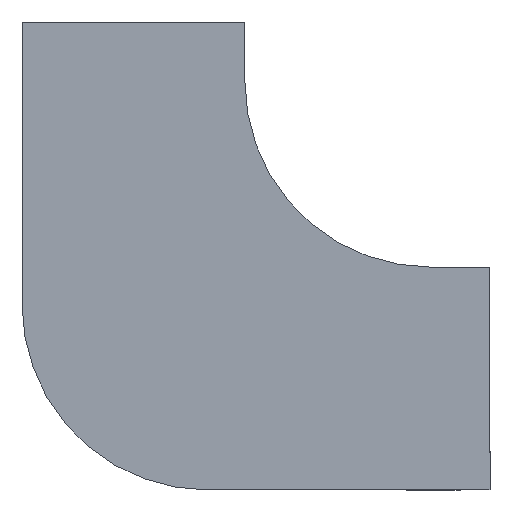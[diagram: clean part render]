
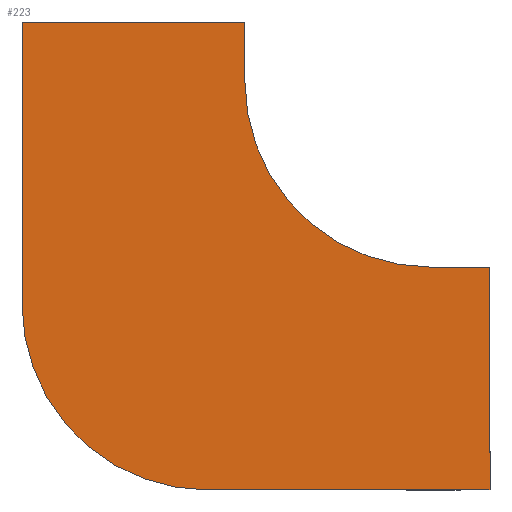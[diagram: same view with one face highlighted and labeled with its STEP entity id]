
A CAD part, front view. The second image highlights one B-rep face of the part: STEP entity #223.
In plain terms, the highlighted planar face has unit normal (0, -1, 0).
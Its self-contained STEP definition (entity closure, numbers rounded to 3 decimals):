
#14 = ORIENTED_EDGE ( 'NONE', *, *, #343, .F. ) ;
#18 = EDGE_CURVE ( 'NONE', #1319, #1328, #1336, .T. ) ;
#63 = PLANE ( 'NONE',  #882 ) ;
#86 = CARTESIAN_POINT ( 'NONE',  ( -125., 0., 0. ) ) ;
#129 = VECTOR ( 'NONE', #1290, 1000. ) ;
#193 = CARTESIAN_POINT ( 'NONE',  ( 40., 0., -125. ) ) ;
#201 = VERTEX_POINT ( 'NONE', #203 ) ;
#203 = CARTESIAN_POINT ( 'NONE',  ( 0., 0., -125. ) ) ;
#218 = EDGE_CURVE ( 'NONE', #1328, #788, #1378, .T. ) ;
#223 = ADVANCED_FACE ( 'NONE', ( #1613 ), #63, .T. ) ;
#256 = CARTESIAN_POINT ( 'NONE',  ( 0., 0., 0. ) ) ;
#339 = DIRECTION ( 'NONE',  ( 1., 0., 0. ) ) ;
#343 = EDGE_CURVE ( 'NONE', #788, #201, #1384, .T. ) ;
#436 = CARTESIAN_POINT ( 'NONE',  ( 40., 0., -125. ) ) ;
#444 = EDGE_CURVE ( 'NONE', #1089, #1319, #1603, .T. ) ;
#453 = VECTOR ( 'NONE', #1621, 1000. ) ;
#455 = DIRECTION ( 'NONE',  ( 0., 0., -1. ) ) ;
#502 = ORIENTED_EDGE ( 'NONE', *, *, #1056, .F. ) ;
#510 = VECTOR ( 'NONE', #1464, 1000. ) ;
#547 = DIRECTION ( 'NONE',  ( 0., 0., 1. ) ) ;
#552 = VERTEX_POINT ( 'NONE', #1031 ) ;
#578 = VERTEX_POINT ( 'NONE', #193 ) ;
#624 = EDGE_LOOP ( 'NONE', ( #736, #1098, #1330, #760, #1657, #502, #14, #1471 ) ) ;
#670 = CARTESIAN_POINT ( 'NONE',  ( -275., 0., -150. ) ) ;
#687 = DIRECTION ( 'NONE',  ( 0., 0., 1. ) ) ;
#736 = ORIENTED_EDGE ( 'NONE', *, *, #18, .F. ) ;
#760 = ORIENTED_EDGE ( 'NONE', *, *, #804, .F. ) ;
#764 = DIRECTION ( 'NONE',  ( 0., -1., 0. ) ) ;
#765 = LINE ( 'NONE', #895, #129 ) ;
#785 = CARTESIAN_POINT ( 'NONE',  ( -275., 0., 40. ) ) ;
#788 = VERTEX_POINT ( 'NONE', #86 ) ;
#804 = EDGE_CURVE ( 'NONE', #838, #552, #765, .T. ) ;
#818 = VECTOR ( 'NONE', #950, 1000. ) ;
#838 = VERTEX_POINT ( 'NONE', #1535 ) ;
#882 = AXIS2_PLACEMENT_3D ( 'NONE', #962, #1510, #455 ) ;
#895 = CARTESIAN_POINT ( 'NONE',  ( 40., 0., -275. ) ) ;
#950 = DIRECTION ( 'NONE',  ( 1., 0., 0. ) ) ;
#962 = CARTESIAN_POINT ( 'NONE',  ( 0., 0., 0. ) ) ;
#1007 = EDGE_CURVE ( 'NONE', #552, #1089, #1326, .T. ) ;
#1031 = CARTESIAN_POINT ( 'NONE',  ( -150., 0., -275. ) ) ;
#1056 = EDGE_CURVE ( 'NONE', #201, #578, #1493, .T. ) ;
#1089 = VERTEX_POINT ( 'NONE', #1090 ) ;
#1090 = CARTESIAN_POINT ( 'NONE',  ( -275., 0., -150. ) ) ;
#1098 = ORIENTED_EDGE ( 'NONE', *, *, #444, .F. ) ;
#1099 = CARTESIAN_POINT ( 'NONE',  ( -150., 0., -150. ) ) ;
#1205 = CARTESIAN_POINT ( 'NONE',  ( -275., 0., 40. ) ) ;
#1243 = VECTOR ( 'NONE', #339, 1000. ) ;
#1289 = DIRECTION ( 'NONE',  ( 0., 0., -1. ) ) ;
#1290 = DIRECTION ( 'NONE',  ( -1., 0., 0. ) ) ;
#1319 = VERTEX_POINT ( 'NONE', #785 ) ;
#1325 = CARTESIAN_POINT ( 'NONE',  ( -125., 0., 40. ) ) ;
#1326 = CIRCLE ( 'NONE', #1555, 125. ) ;
#1328 = VERTEX_POINT ( 'NONE', #1325 ) ;
#1330 = ORIENTED_EDGE ( 'NONE', *, *, #1007, .F. ) ;
#1336 = LINE ( 'NONE', #1205, #818 ) ;
#1352 = CARTESIAN_POINT ( 'NONE',  ( 0., 0., -125. ) ) ;
#1378 = LINE ( 'NONE', #1389, #453 ) ;
#1384 = CIRCLE ( 'NONE', #1494, 125. ) ;
#1389 = CARTESIAN_POINT ( 'NONE',  ( -125., 0., 40. ) ) ;
#1464 = DIRECTION ( 'NONE',  ( 0., 0., -1. ) ) ;
#1471 = ORIENTED_EDGE ( 'NONE', *, *, #218, .F. ) ;
#1484 = DIRECTION ( 'NONE',  ( 0., 1., 0. ) ) ;
#1493 = LINE ( 'NONE', #1352, #1243 ) ;
#1494 = AXIS2_PLACEMENT_3D ( 'NONE', #256, #764, #1289 ) ;
#1510 = DIRECTION ( 'NONE',  ( 0., -1., 0. ) ) ;
#1535 = CARTESIAN_POINT ( 'NONE',  ( 40., 0., -275. ) ) ;
#1555 = AXIS2_PLACEMENT_3D ( 'NONE', #1099, #1484, #687 ) ;
#1589 = LINE ( 'NONE', #436, #510 ) ;
#1602 = VECTOR ( 'NONE', #547, 1000. ) ;
#1603 = LINE ( 'NONE', #670, #1602 ) ;
#1613 = FACE_OUTER_BOUND ( 'NONE', #624, .T. ) ;
#1621 = DIRECTION ( 'NONE',  ( 0., 0., -1. ) ) ;
#1636 = EDGE_CURVE ( 'NONE', #578, #838, #1589, .T. ) ;
#1657 = ORIENTED_EDGE ( 'NONE', *, *, #1636, .F. ) ;
